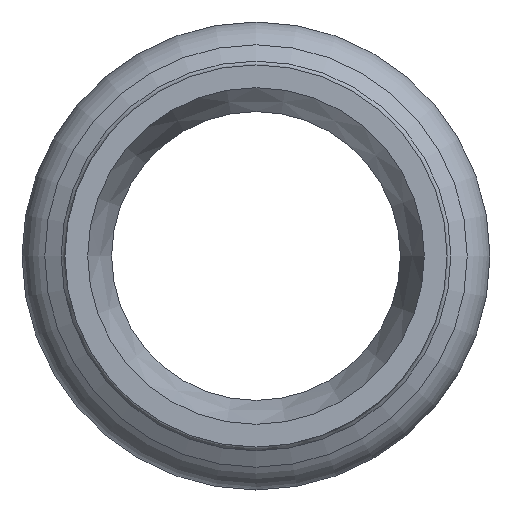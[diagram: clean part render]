
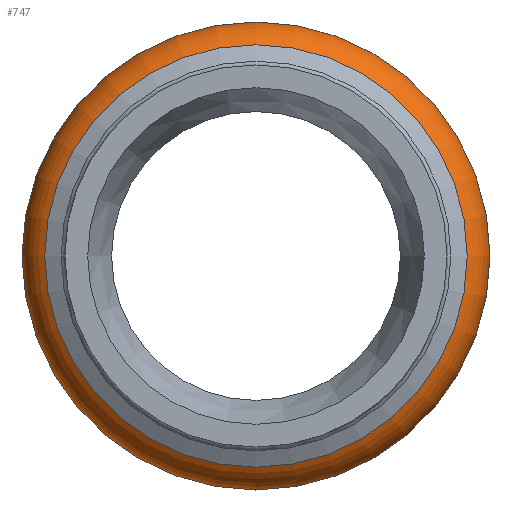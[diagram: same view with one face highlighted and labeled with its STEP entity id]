
A CAD part, left-side view. The second image highlights one B-rep face of the part: STEP entity #747.
In plain terms, the highlighted toroidal (fillet/blend) face has major radius 12.4 mm and minor radius 3 mm.
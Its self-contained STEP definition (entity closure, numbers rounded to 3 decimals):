
#565=CARTESIAN_POINT('',(-22.056,12.979,0.0));
#566=VERTEX_POINT('',#565);
#567=CARTESIAN_POINT('',(-22.056,0.,0.0));
#568=DIRECTION('',(1.0,0.0,0.0));
#569=DIRECTION('',(0.0,-1.0,0.0));
#570=AXIS2_PLACEMENT_3D('',#567,#568,#569);
#571=CIRCLE('',#570,12.979);
#572=EDGE_CURVE('',#566,#566,#571,.T.);
#709=CARTESIAN_POINT('',(-27.598,13.9,0.0));
#710=VERTEX_POINT('',#709);
#711=CARTESIAN_POINT('',(-27.598,0.,0.0));
#712=DIRECTION('',(1.0,0.0,0.0));
#713=DIRECTION('',(0.0,1.0,0.0));
#714=AXIS2_PLACEMENT_3D('',#711,#712,#713);
#715=CIRCLE('',#714,13.9);
#716=EDGE_CURVE('',#710,#710,#715,.T.);
#736=CARTESIAN_POINT('',(-25.0,0.,0.0));
#737=DIRECTION('',(1.0,0.,0.0));
#738=DIRECTION('',(0.0,0.0,-1.0));
#739=AXIS2_PLACEMENT_3D('',#736,#737,#738);
#740=TOROIDAL_SURFACE('',#739,12.4,3.);
#741=ORIENTED_EDGE('',*,*,#716,.T.);
#742=EDGE_LOOP('',(#741));
#743=FACE_OUTER_BOUND('',#742,.T.);
#744=ORIENTED_EDGE('',*,*,#572,.F.);
#745=EDGE_LOOP('',(#744));
#746=FACE_BOUND('',#745,.T.);
#747=ADVANCED_FACE('',(#743,#746),#740,.T.);
